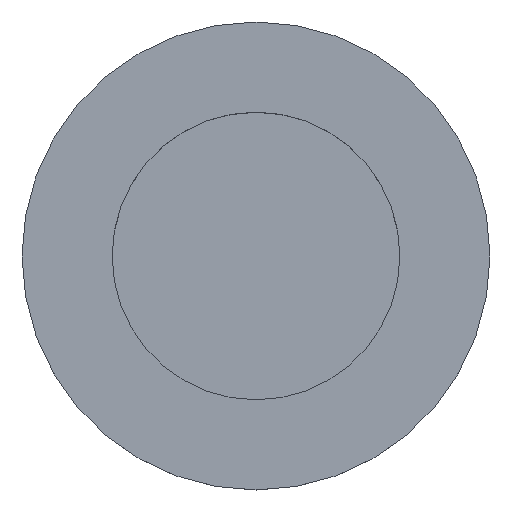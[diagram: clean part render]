
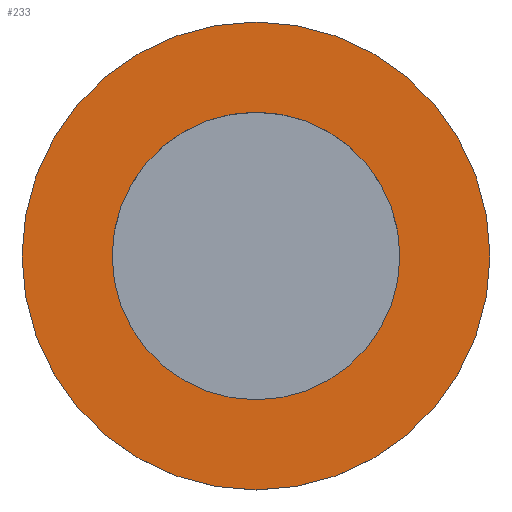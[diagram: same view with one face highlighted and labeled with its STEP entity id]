
A CAD part, top view. The second image highlights one B-rep face of the part: STEP entity #233.
In plain terms, the highlighted planar face has unit normal (0, 0, 1).
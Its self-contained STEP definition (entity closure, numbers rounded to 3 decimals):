
#158=CARTESIAN_POINT('',(54.5,0.,22.0));
#159=VERTEX_POINT('',#158);
#160=CARTESIAN_POINT('',(0.0,0.0,22.0));
#161=DIRECTION('',(0.0,0.0,-1.0));
#162=DIRECTION('',(-1.0,0.0,0.0));
#163=AXIS2_PLACEMENT_3D('',#160,#161,#162);
#164=CIRCLE('',#163,54.5);
#165=EDGE_CURVE('',#159,#159,#164,.T.);
#201=CARTESIAN_POINT('',(33.5,0.,22.0));
#202=VERTEX_POINT('',#201);
#203=CARTESIAN_POINT('',(0.0,0.0,22.0));
#204=DIRECTION('',(0.0,0.0,-1.0));
#205=DIRECTION('',(-1.0,0.0,0.0));
#206=AXIS2_PLACEMENT_3D('',#203,#204,#205);
#207=CIRCLE('',#206,33.5);
#208=EDGE_CURVE('',#202,#202,#207,.T.);
#222=CARTESIAN_POINT('',(0.0,0.0,22.0));
#223=DIRECTION('',(0.0,0.0,-1.0));
#224=DIRECTION('',(-1.0,0.0,0.0));
#225=AXIS2_PLACEMENT_3D('',#222,#223,#224);
#226=PLANE('',#225);
#227=ORIENTED_EDGE('',*,*,#165,.F.);
#228=EDGE_LOOP('',(#227));
#229=FACE_OUTER_BOUND('',#228,.T.);
#230=ORIENTED_EDGE('',*,*,#208,.T.);
#231=EDGE_LOOP('',(#230));
#232=FACE_BOUND('',#231,.T.);
#233=ADVANCED_FACE('',(#229,#232),#226,.F.);
